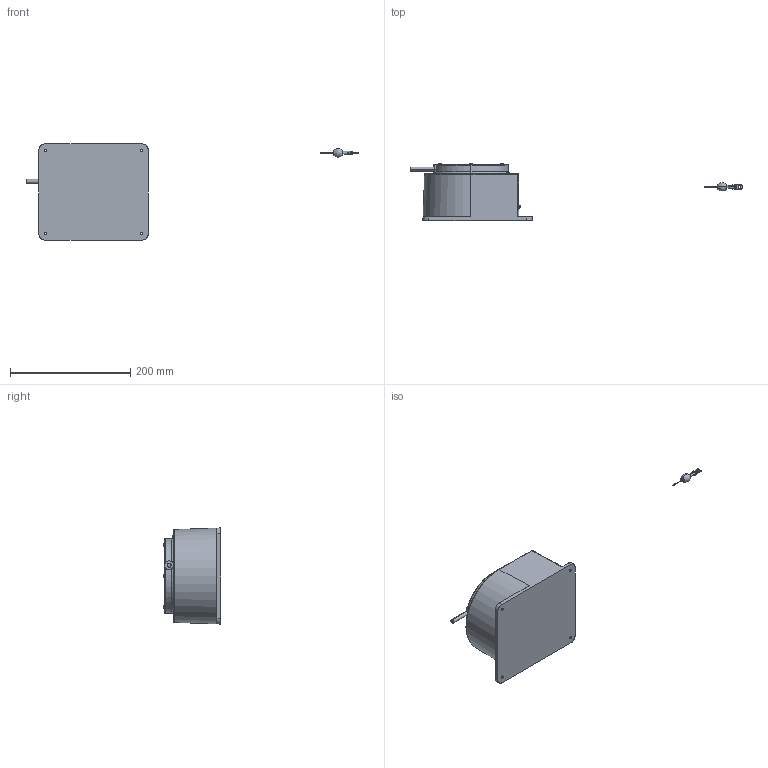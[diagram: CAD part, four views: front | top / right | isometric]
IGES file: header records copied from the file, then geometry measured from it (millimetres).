
Start section: SolidWorks IGES file using analytic representation for surfaces
Bounding box: 552.74 x 95.2 x 160 mm (x, y, z)
Surface area: 114757 mm2 (no closed solid volume)
Topology: 0 solids, 0 shells, 264 faces, 3943 edges, 3942 vertices
Faces by surface type: bspline 165, revolution 99
